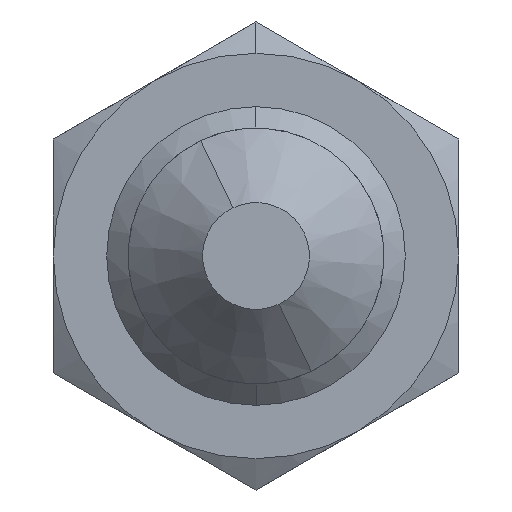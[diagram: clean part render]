
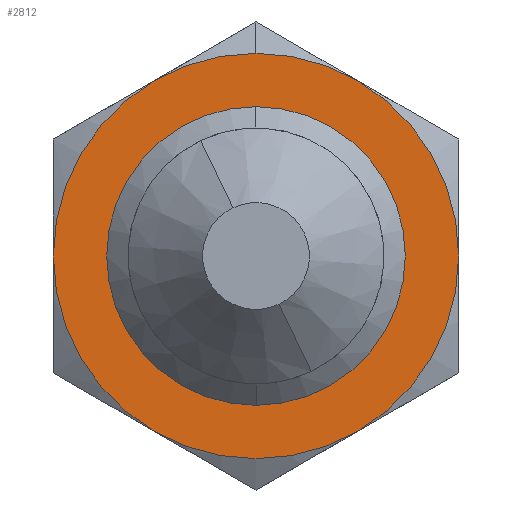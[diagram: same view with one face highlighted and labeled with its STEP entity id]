
A CAD part, left-side view. The second image highlights one B-rep face of the part: STEP entity #2812.
In plain terms, the highlighted planar face has unit normal (-1, 0, 0) as drawn and (0, 0, -1) by its records, which use the part's own axes.
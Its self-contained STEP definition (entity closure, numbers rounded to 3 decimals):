
#2624 = VERTEX_POINT ( 'NONE', #5264 ) ;
#2626 = VERTEX_POINT ( 'NONE', #5262 ) ;
#2637 = VERTEX_POINT ( 'NONE', #5245 ) ;
#2647 = VERTEX_POINT ( 'NONE', #5282 ) ;
#2652 = ORIENTED_EDGE ( 'NONE', *, *, #2653, .F. ) ;
#2653 = EDGE_CURVE ( 'NONE', #2679, #2728, #5433, .T. ) ;
#2655 = ORIENTED_EDGE ( 'NONE', *, *, #2656, .F. ) ;
#2656 = EDGE_CURVE ( 'NONE', #2879, #2679, #5424, .T. ) ;
#2657 = ORIENTED_EDGE ( 'NONE', *, *, #2658, .F. ) ;
#2658 = EDGE_CURVE ( 'NONE', #2647, #2879, #5599, .T. ) ;
#2659 = ORIENTED_EDGE ( 'NONE', *, *, #2660, .F. ) ;
#2660 = EDGE_CURVE ( 'NONE', #2704, #2647, #5556, .T. ) ;
#2661 = ORIENTED_EDGE ( 'NONE', *, *, #2662, .F. ) ;
#2662 = EDGE_CURVE ( 'NONE', #2626, #2704, #5479, .T. ) ;
#2663 = ORIENTED_EDGE ( 'NONE', *, *, #2664, .F. ) ;
#2664 = EDGE_CURVE ( 'NONE', #2624, #2626, #5523, .T. ) ;
#2665 = ORIENTED_EDGE ( 'NONE', *, *, #2694, .F. ) ;
#2679 = VERTEX_POINT ( 'NONE', #5602 ) ;
#2694 = EDGE_CURVE ( 'NONE', #2728, #2624, #5579, .T. ) ;
#2704 = VERTEX_POINT ( 'NONE', #5565 ) ;
#2728 = VERTEX_POINT ( 'NONE', #5689 ) ;
#2761 = EDGE_CURVE ( 'NONE', #2762, #2637, #5670, .T. ) ;
#2762 = VERTEX_POINT ( 'NONE', #5656 ) ;
#2812 = ADVANCED_FACE ( 'NONE', ( #5615, #5613 ), #5622, .F. ) ;
#2813 = EDGE_LOOP ( 'NONE', ( #2814, #2815 ) ) ;
#2814 = ORIENTED_EDGE ( 'NONE', *, *, #2761, .T. ) ;
#2815 = ORIENTED_EDGE ( 'NONE', *, *, #2816, .T. ) ;
#2816 = EDGE_CURVE ( 'NONE', #2637, #2762, #5740, .T. ) ;
#2817 = EDGE_LOOP ( 'NONE', ( #2655, #2657, #2659, #2661, #2663, #2665, #2652 ) ) ;
#2879 = VERTEX_POINT ( 'NONE', #5866 ) ;
#5245 = CARTESIAN_POINT ( 'NONE',  ( 7., 0., -2.5 ) ) ;
#5262 = CARTESIAN_POINT ( 'NONE',  ( -8.227, -4.75, -2.5 ) ) ;
#5264 = CARTESIAN_POINT ( 'NONE',  ( -9.5, 0., -2.5 ) ) ;
#5282 = CARTESIAN_POINT ( 'NONE',  ( 8.227, -4.75, -2.5 ) ) ;
#5416 = DIRECTION ( 'NONE',  ( 1., 0., 0. ) ) ;
#5417 = DIRECTION ( 'NONE',  ( 0., 0., 1. ) ) ;
#5418 = CARTESIAN_POINT ( 'NONE',  ( 0., 0., -2.5 ) ) ;
#5419 = AXIS2_PLACEMENT_3D ( 'NONE', #5418, #5417, #5416 ) ;
#5424 = CIRCLE ( 'NONE', #5419, 9.5 ) ;
#5429 = DIRECTION ( 'NONE',  ( 1., 0., 0. ) ) ;
#5430 = DIRECTION ( 'NONE',  ( 0., 0., 1. ) ) ;
#5431 = CARTESIAN_POINT ( 'NONE',  ( 0., 0., -2.5 ) ) ;
#5432 = AXIS2_PLACEMENT_3D ( 'NONE', #5431, #5430, #5429 ) ;
#5433 = CIRCLE ( 'NONE', #5432, 9.5 ) ;
#5478 = AXIS2_PLACEMENT_3D ( 'NONE', #5501, #5504, #5503 ) ;
#5479 = CIRCLE ( 'NONE', #5478, 9.5 ) ;
#5492 = DIRECTION ( 'NONE',  ( 0., 0., 1. ) ) ;
#5501 = CARTESIAN_POINT ( 'NONE',  ( 0., 0., -2.5 ) ) ;
#5502 = CARTESIAN_POINT ( 'NONE',  ( 0., 0., -2.5 ) ) ;
#5503 = DIRECTION ( 'NONE',  ( 1., 0., 0. ) ) ;
#5504 = DIRECTION ( 'NONE',  ( 0., 0., 1. ) ) ;
#5522 = CARTESIAN_POINT ( 'NONE',  ( 0., 0., -2.5 ) ) ;
#5523 = CIRCLE ( 'NONE', #5572, 9.5 ) ;
#5530 = DIRECTION ( 'NONE',  ( 0., 0., 1. ) ) ;
#5533 = DIRECTION ( 'NONE',  ( 1., 0., 0. ) ) ;
#5542 = DIRECTION ( 'NONE',  ( 1., 0., 0. ) ) ;
#5543 = DIRECTION ( 'NONE',  ( 0., 0., 1. ) ) ;
#5544 = AXIS2_PLACEMENT_3D ( 'NONE', #5557, #5492, #5555 ) ;
#5555 = DIRECTION ( 'NONE',  ( 1., 0., 0. ) ) ;
#5556 = CIRCLE ( 'NONE', #5588, 9.5 ) ;
#5557 = CARTESIAN_POINT ( 'NONE',  ( 0., 0., -2.5 ) ) ;
#5565 = CARTESIAN_POINT ( 'NONE',  ( 0., -9.5, -2.5 ) ) ;
#5572 = AXIS2_PLACEMENT_3D ( 'NONE', #5502, #5543, #5542 ) ;
#5575 = DIRECTION ( 'NONE',  ( 1., 0., 0. ) ) ;
#5576 = DIRECTION ( 'NONE',  ( 0., 0., 1. ) ) ;
#5577 = CARTESIAN_POINT ( 'NONE',  ( 0., 0., -2.5 ) ) ;
#5578 = AXIS2_PLACEMENT_3D ( 'NONE', #5577, #5576, #5575 ) ;
#5579 = CIRCLE ( 'NONE', #5578, 9.5 ) ;
#5588 = AXIS2_PLACEMENT_3D ( 'NONE', #5522, #5530, #5533 ) ;
#5599 = CIRCLE ( 'NONE', #5544, 9.5 ) ;
#5602 = CARTESIAN_POINT ( 'NONE',  ( 0., 9.5, -2.5 ) ) ;
#5611 = CARTESIAN_POINT ( 'NONE',  ( 5.485, 9.5, -2.5 ) ) ;
#5612 = AXIS2_PLACEMENT_3D ( 'NONE', #5611, #5742, #5741 ) ;
#5613 = FACE_OUTER_BOUND ( 'NONE', #2817, .T. ) ;
#5615 = FACE_BOUND ( 'NONE', #2813, .T. ) ;
#5622 = PLANE ( 'NONE',  #5612 ) ;
#5656 = CARTESIAN_POINT ( 'NONE',  ( -7., 0., -2.5 ) ) ;
#5657 = DIRECTION ( 'NONE',  ( 1., 0., 0. ) ) ;
#5658 = DIRECTION ( 'NONE',  ( 0., 0., 1. ) ) ;
#5659 = CARTESIAN_POINT ( 'NONE',  ( 0., 0., -2.5 ) ) ;
#5660 = AXIS2_PLACEMENT_3D ( 'NONE', #5659, #5658, #5657 ) ;
#5670 = CIRCLE ( 'NONE', #5660, 7. ) ;
#5689 = CARTESIAN_POINT ( 'NONE',  ( -8.227, 4.75, -2.5 ) ) ;
#5736 = DIRECTION ( 'NONE',  ( 1., 0., 0. ) ) ;
#5737 = DIRECTION ( 'NONE',  ( 0., 0., 1. ) ) ;
#5738 = CARTESIAN_POINT ( 'NONE',  ( 0., 0., -2.5 ) ) ;
#5739 = AXIS2_PLACEMENT_3D ( 'NONE', #5738, #5737, #5736 ) ;
#5740 = CIRCLE ( 'NONE', #5739, 7. ) ;
#5741 = DIRECTION ( 'NONE',  ( 1., 0., 0. ) ) ;
#5742 = DIRECTION ( 'NONE',  ( 0., 0., 1. ) ) ;
#5866 = CARTESIAN_POINT ( 'NONE',  ( 8.227, 4.75, -2.5 ) ) ;
